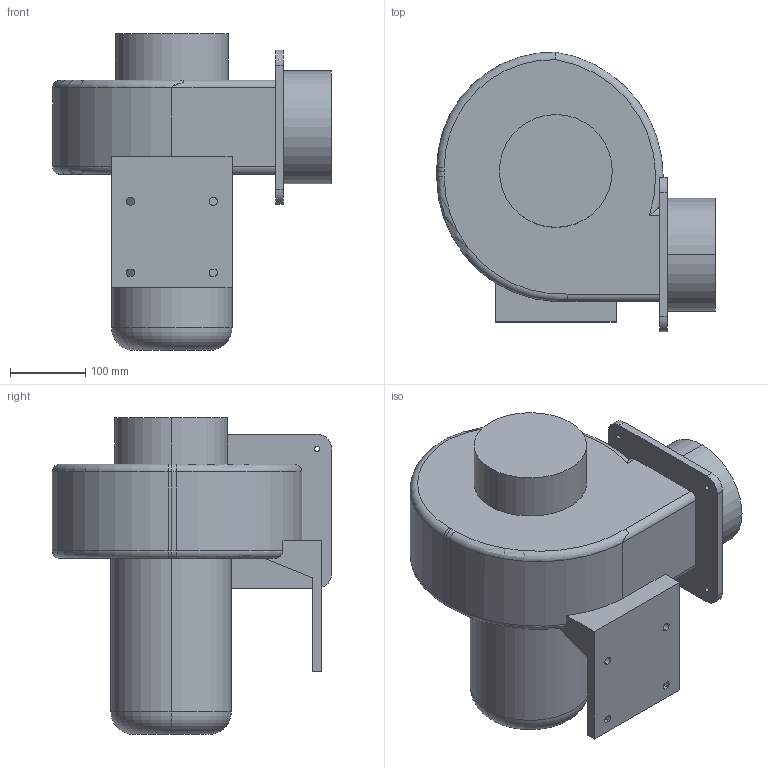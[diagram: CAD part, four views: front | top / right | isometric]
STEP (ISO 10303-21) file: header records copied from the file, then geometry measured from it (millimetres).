
FILE_DESCRIPTION (( 'STEP AP203' ), '1' );
FILE_NAME ('750.STEP', '2019-05-09T03:24:43', ( 'User' ), ( 'www.dadighost.com' ), 'SwSTEP 2.0', 'SolidWorks 2014', '' );
FILE_SCHEMA (( 'CONFIG_CONTROL_DESIGN' ));
Length unit declared in the file: millimetre
Products named in the file (1): 750
Bounding box: 370.39 x 371.52 x 421 mm (x, y, z)
Volume: 16386667.9 mm3; surface area: 633007.3 mm2
Topology: 1 solids, 1 shells, 110 faces, 295 edges, 190 vertices
Faces by surface type: cylinder 56, plane 42, torus 12
Entity records: 3972 total; most frequent: CARTESIAN_POINT 1009, DIRECTION 641, ORIENTED_EDGE 590, EDGE_CURVE 295, AXIS2_PLACEMENT_3D 252, VERTEX_POINT 190, CIRCLE 141, LINE 137
